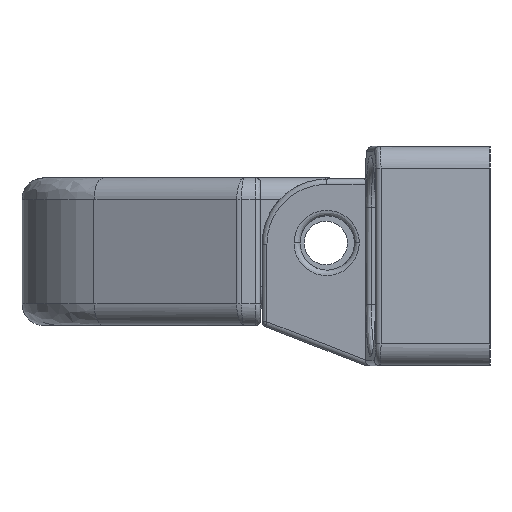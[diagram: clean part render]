
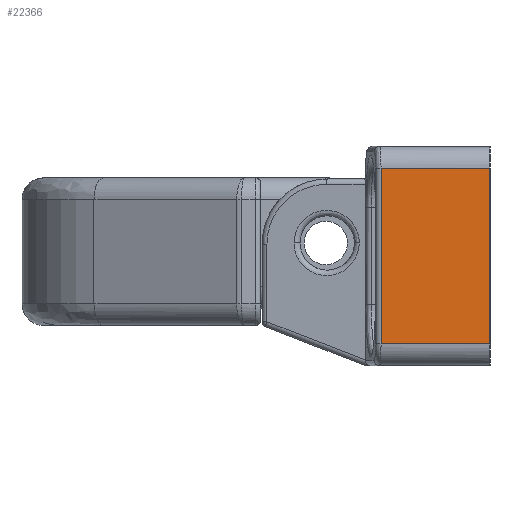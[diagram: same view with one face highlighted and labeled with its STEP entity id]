
A CAD part, left-side view. The second image highlights one B-rep face of the part: STEP entity #22366.
In plain terms, the highlighted planar face has unit normal (-1, 0, 0).
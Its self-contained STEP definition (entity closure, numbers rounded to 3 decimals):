
#4445 = VECTOR ( 'NONE', #4845, 1000. ) ;
#4488 = VECTOR ( 'NONE', #5124, 1000. ) ;
#4490 = VECTOR ( 'NONE', #5127, 1000. ) ;
#4491 = VECTOR ( 'NONE', #5130, 1000. ) ;
#4839 = LINE ( 'NONE', #4844, #4445 ) ;
#4844 = CARTESIAN_POINT ( 'NONE',  ( 1889.191, -1038.363, -3.7 ) ) ;
#4845 = DIRECTION ( 'NONE',  ( 0., 0., -1. ) ) ;
#5107 = LINE ( 'NONE', #5108, #4488 ) ;
#5108 = CARTESIAN_POINT ( 'NONE',  ( 1889.191, -1048.406, 14.5 ) ) ;
#5124 = DIRECTION ( 'NONE',  ( 0., 1., 0. ) ) ;
#5125 = LINE ( 'NONE', #5126, #4490 ) ;
#5126 = CARTESIAN_POINT ( 'NONE',  ( 1889.191, -1048.406, -3.7 ) ) ;
#5127 = DIRECTION ( 'NONE',  ( 0., 0., -1. ) ) ;
#5128 = LINE ( 'NONE', #5129, #4491 ) ;
#5129 = CARTESIAN_POINT ( 'NONE',  ( 1889.191, -1044.057, -1.7 ) ) ;
#5130 = DIRECTION ( 'NONE',  ( 0., 1., 0. ) ) ;
#5811 = AXIS2_PLACEMENT_3D ( 'NONE', #6103, #6104, #6105 ) ;
#6092 = FACE_OUTER_BOUND ( 'NONE', #21754, .T. ) ;
#6093 = PLANE ( 'NONE',  #5811 ) ;
#6103 = CARTESIAN_POINT ( 'NONE',  ( 1889.191, -1048.406, -3.7 ) ) ;
#6104 = DIRECTION ( 'NONE',  ( -1., 0., 0. ) ) ;
#6105 = DIRECTION ( 'NONE',  ( 0., -1., 0. ) ) ;
#15503 = ORIENTED_EDGE ( 'NONE', *, *, #22302, .F. ) ;
#15505 = ORIENTED_EDGE ( 'NONE', *, *, #22301, .T. ) ;
#15507 = ORIENTED_EDGE ( 'NONE', *, *, #21568, .T. ) ;
#15509 = ORIENTED_EDGE ( 'NONE', *, *, #22303, .F. ) ;
#21568 = EDGE_CURVE ( 'NONE', #28799, #28801, #4839, .T. ) ;
#21754 = EDGE_LOOP ( 'NONE', ( #15503, #15505, #15507, #15509 ) ) ;
#22301 = EDGE_CURVE ( 'NONE', #28821, #28799, #5107, .T. ) ;
#22302 = EDGE_CURVE ( 'NONE', #28821, #28812, #5125, .T. ) ;
#22303 = EDGE_CURVE ( 'NONE', #28812, #28801, #5128, .T. ) ;
#22366 = ADVANCED_FACE ( 'NONE', ( #6092 ), #6093, .T. ) ;
#28799 = VERTEX_POINT ( 'NONE', #39141 ) ;
#28801 = VERTEX_POINT ( 'NONE', #39143 ) ;
#28812 = VERTEX_POINT ( 'NONE', #39153 ) ;
#28821 = VERTEX_POINT ( 'NONE', #39162 ) ;
#39141 = CARTESIAN_POINT ( 'NONE',  ( 1889.191, -1038.363, 14.5 ) ) ;
#39143 = CARTESIAN_POINT ( 'NONE',  ( 1889.191, -1038.363, -1.7 ) ) ;
#39153 = CARTESIAN_POINT ( 'NONE',  ( 1889.191, -1048.406, -1.7 ) ) ;
#39162 = CARTESIAN_POINT ( 'NONE',  ( 1889.191, -1048.406, 14.5 ) ) ;
